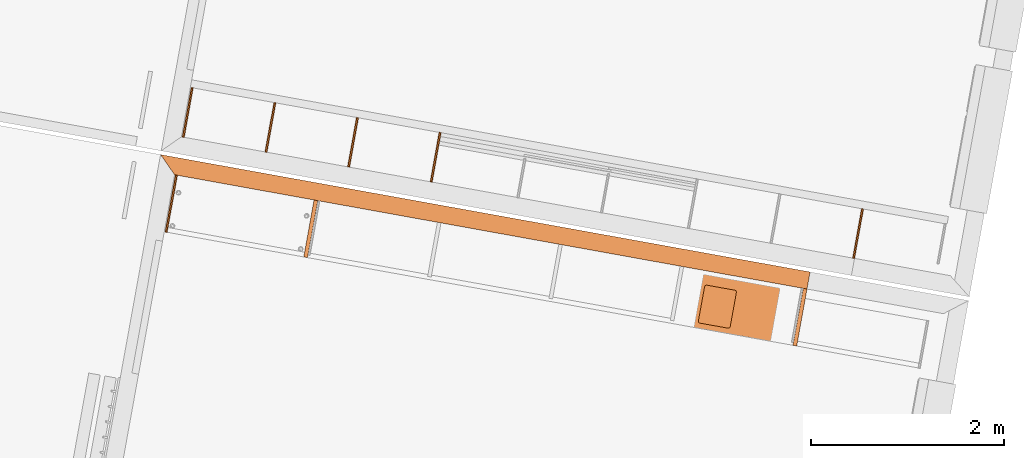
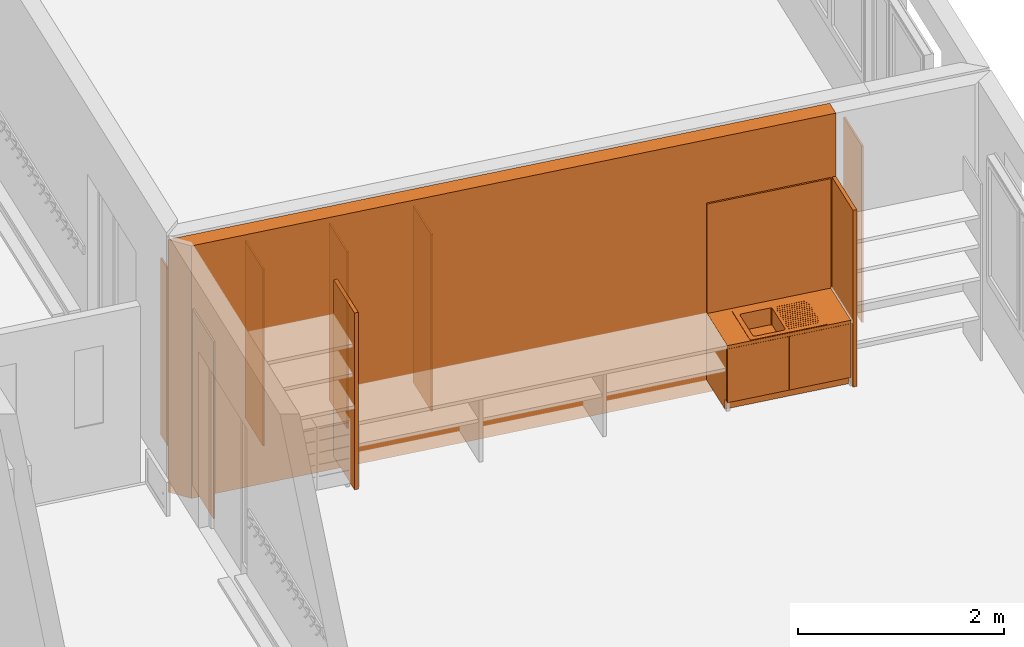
# One storey, part 19 of 52: 10 proxies.
"""IFC2X3 building model written with IfcOpenShell, lengths in metres."""

from ifc_helpers import new_model, entity, si_unit, converted_unit, derived_unit, money_unit, direction, frame, origin_with_axes, place, context, subcontext, project, spatial, polyline, outline, extrude, open_shell, faceted_brep, surface_model, source, transform, mapped, material, type_object, element, save


model = new_model("IFC2X3")

# Units and contexts
model_context = context("Model", 3, precision=1e-05, world=origin_with_axes(), true_north=direction((0.0, 1.0)))
body_context = subcontext(model_context, "Body", "Model", "MODEL_VIEW")
ifc_project = project(units=[si_unit("LENGTHUNIT", "METRE"), si_unit("AREAUNIT", "SQUARE_METRE"), si_unit("VOLUMEUNIT", "CUBIC_METRE"), converted_unit("PLANEANGLEUNIT", "DEGREE", entity("IfcPlaneAngleMeasure", 0.0174532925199), si_unit("PLANEANGLEUNIT", "RADIAN"), dimensions=[0, 0, 0, 0, 0, 0, 0]), money_unit("CHF"), converted_unit("TIMEUNIT", "Year", entity("IfcTimeMeasure", 31556926.0), si_unit("TIMEUNIT", "SECOND"), dimensions=[0, 0, 1, 0, 0, 0, 0]), si_unit("MASSUNIT", "GRAM", prefix="KILO"), si_unit("THERMODYNAMICTEMPERATUREUNIT", "DEGREE_CELSIUS"), si_unit("LUMINOUSINTENSITYUNIT", "LUMEN"), si_unit("ENERGYUNIT", "JOULE", prefix="MEGA"), derived_unit("THERMALCONDUCTANCEUNIT", [(si_unit("POWERUNIT", "WATT"), 1), (si_unit("LENGTHUNIT", "METRE"), -1), (si_unit("THERMODYNAMICTEMPERATUREUNIT", "KELVIN"), -1)]), derived_unit("SPECIFICHEATCAPACITYUNIT", [(si_unit("ENERGYUNIT", "JOULE"), 1), (si_unit("MASSUNIT", "GRAM", prefix="KILO"), -1), (si_unit("THERMODYNAMICTEMPERATUREUNIT", "KELVIN"), -1)]), derived_unit("MASSDENSITYUNIT", [(si_unit("MASSUNIT", "GRAM", prefix="KILO"), 1), (si_unit("VOLUMEUNIT", "CUBIC_METRE"), -1)])], contexts=[model_context])

# Site, building, storey
site_placement = place(None, frame((0.0, 0.0, 0.0), z_axis=(0.0, 0.0, 1.0), x_axis=(-0.177771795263, -0.984071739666, 0.0)))
site = spatial("IfcSite", under=ifc_project, at=site_placement, Name="Site", CompositionType="ELEMENT")
building_placement = place(site_placement, origin_with_axes())
building = spatial("IfcBuilding", under=site, at=building_placement, Name="Bâtiment", CompositionType="ELEMENT")
storey_placement = place(building_placement, frame((0.0, 0.0, 3.2), z_axis=(0.0, 0.0, 1.0), x_axis=(1.0, 0.0, 0.0)))
storey = spatial("IfcBuildingStorey", under=building, at=storey_placement, Name="R+1", CompositionType="ELEMENT", Elevation=3.2)

# Proxies
ifc_material_1 = material(Name="_BA banché RAL9007")
building_element_proxy_type_1 = type_object("IfcBuildingElementProxyType", Name="_BA banché RAL9007 180", PredefinedType="NOTDEFINED")
proxy_1_placement = place(storey_placement, frame((128.504841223, -156.627151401, -0.15), z_axis=(0.0, 0.0, 1.0), x_axis=(0.0, 1.0, 0.0)))
element("IfcBuildingElementProxy", 1, at=proxy_1_placement, inside=storey, type_object=building_element_proxy_type_1, material=ifc_material_1, Name="M refend", context=body_context, shape_type="SweptSolid", body=[
    extrude(outline(polyline([(0.17999999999, -0.18), (6.84099999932, -0.18), (6.84099999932, 0.0), (0.0, 0.0), (0.17999999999, -0.18)])), origin_with_axes(), (0.0, 0.0, 1.0), 3.0),
])
ifc_material_2 = material(Name="_panneau mélaminé")
building_element_proxy_type_2 = type_object("IfcBuildingElementProxyType", Name="_panneau mélaminé 40", PredefinedType="NOTDEFINED")
proxy_2_placement = place(storey_placement, frame((129.284841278, -149.826151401, 0.0), z_axis=(0.0, 0.0, 1.0), x_axis=(-1.0, 0.0, 0.0)))
element("IfcBuildingElementProxy", 2, at=proxy_2_placement, inside=storey, type_object=building_element_proxy_type_2, material=ifc_material_2, Name="cloison-fd-classe D", context=body_context, shape_type="SweptSolid", body=[
    extrude(outline(polyline([(0.0, -0.04), (0.600000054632, -0.04), (0.600000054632, 0.0), (0.0, 0.0), (0.0, -0.04)])), origin_with_axes(), (0.0, 0.0, 1.0), 2.1),
])
proxy_3_placement = place(storey_placement, frame((129.284841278, -154.978236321, 0.0), z_axis=(0.0, 0.0, 1.0), x_axis=(-1.0, 0.0, 0.0)))
element("IfcBuildingElementProxy", 3, at=proxy_3_placement, inside=storey, type_object=building_element_proxy_type_2, material=ifc_material_2, Name="cloison-fd-classe G", context=body_context, shape_type="SweptSolid", body=[
    extrude(outline(polyline([(0.0, -0.04), (0.600000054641, -0.04), (0.600000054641, 0.0), (0.0, 0.0), (0.0, -0.04)])), origin_with_axes(), (0.0, 0.0, 1.0), 2.1),
])
building_element_proxy_type_3 = type_object("IfcBuildingElementProxyType", Name="_panneau mélaminé 19", PredefinedType="NOTDEFINED")
proxy_4_placement = place(storey_placement, frame((129.284841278, -156.418151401, 0.0), z_axis=(0.0, 0.0, 1.0), x_axis=(-1.0, 0.0, 0.0)))
element("IfcBuildingElementProxy", 4, at=proxy_4_placement, inside=storey, type_object=building_element_proxy_type_3, material=ifc_material_2, Name="cloison-fd-classe G", context=body_context, shape_type="SweptSolid", body=[
    extrude(outline(polyline([(0.0, 0.0), (0.600000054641, 0.0), (0.600000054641, 0.019), (0.0, 0.019), (0.0, 0.0)])), origin_with_axes(), (0.0, 0.0, 1.0), 2.1),
])
proxy_5_placement = place(storey_placement, frame((128.284841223, -156.418136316, 0.0), z_axis=(0.0, 0.0, 1.0), x_axis=(-1.0, 0.0, 0.0)))
element("IfcBuildingElementProxy", 5, at=proxy_5_placement, inside=storey, type_object=building_element_proxy_type_3, material=ifc_material_2, Name="cloison pl-classe", context=body_context, shape_type="SweptSolid", body=[
    extrude(outline(polyline([(0.0, 0.0), (0.519999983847, 0.0), (0.519999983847, 0.019), (0.0, 0.019), (0.0, 0.0)])), origin_with_axes(), (0.0, 0.0, 1.0), 2.1),
])
proxy_6_placement = place(storey_placement, frame((128.28484124, -149.367651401, 0.0), z_axis=(0.0, 0.0, 1.0), x_axis=(-1.0, 0.0, 0.0)))
element("IfcBuildingElementProxy", 6, at=proxy_6_placement, inside=storey, type_object=building_element_proxy_type_3, material=ifc_material_2, Name="cloison pl-classe", context=body_context, shape_type="SweptSolid", body=[
    extrude(outline(polyline([(0.0, -0.0095), (0.519999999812, -0.0095), (0.519999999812, 0.0095), (0.0, 0.0095), (0.0, -0.0095)])), origin_with_axes(), (0.0, 0.0, 1.0), 2.1),
])
for number, where, z_axis, x_axis, name in (
    (7, (128.284841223, -154.686651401, 0.0), (0.0, 0.0, 1.0), (-1.0, 0.0, 0.0), "cloison pl-classe"),
    (8, (128.284841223, -155.556651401, 0.0), (0.0, 0.0, 1.0), (-1.0, 0.0, 0.0), "cloison pl-classe"),
):
    element("IfcBuildingElementProxy", number, at=place(storey_placement, frame(where, z_axis=z_axis, x_axis=x_axis)), inside=storey, type_object=building_element_proxy_type_3, material=ifc_material_2, Name=name, context=body_context, shape_type="SweptSolid", body=[
        extrude(outline(polyline([(0.0, -0.0095), (0.519999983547, -0.0095), (0.519999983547, 0.0095), (0.0, 0.0095), (0.0, -0.0095)])), origin_with_axes(), (0.0, 0.0, 1.0), 2.1),
    ])
proxy_7_placement = place(storey_placement, frame((128.284841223, -153.816651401, 0.0), z_axis=(0.0, 0.0, 1.0), x_axis=(-1.0, 0.0, 0.0)))
element("IfcBuildingElementProxy", 9, at=proxy_7_placement, inside=storey, type_object=building_element_proxy_type_3, material=ifc_material_2, Name="cloison pl-classe", context=body_context, shape_type="SweptSolid", body=[
    extrude(outline(polyline([(0.0, -0.0095), (0.519999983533, -0.0095), (0.519999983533, 0.0095), (0.0, 0.0095), (0.0, -0.0095)])), origin_with_axes(), (0.0, 0.0, 1.0), 2.1),
])
ifc_material_3 = material(Name="Matériau de construction IFC")
building_element_proxy_type_4 = type_object("IfcBuildingElementProxyType", Name="Elément simple avec deux portes 21", PredefinedType="NOTDEFINED")
shared_shape = source(origin_with_axes(), body_context, "Body", "SurfaceModel", [
    surface_model("IfcShellBasedSurfaceModel", [(0.5, 0.600000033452, 0.733), (0.496505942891, 0.600000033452, 0.733460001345), (0.496505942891, 0.620000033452, 0.733460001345), (0.5, 0.620000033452, 0.733), (0.49325, 0.600000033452, 0.734808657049), (0.49325, 0.620000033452, 0.734808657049), (0.503494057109, 0.600000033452, 0.733460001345), (0.503494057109, 0.620000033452, 0.733460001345), (0.490454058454, 0.600000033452, 0.736954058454), (0.490454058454, 0.620000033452, 0.736954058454), (0.50675, 0.600000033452, 0.734808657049), (0.50675, 0.620000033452, 0.734808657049), (0.488308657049, 0.600000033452, 0.73975), (0.488308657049, 0.620000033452, 0.73975), (0.509545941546, 0.600000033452, 0.736954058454), (0.509545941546, 0.620000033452, 0.736954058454), (0.486960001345, 0.600000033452, 0.743005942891), (0.486960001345, 0.620000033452, 0.743005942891), (0.511691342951, 0.600000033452, 0.73975), (0.511691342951, 0.620000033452, 0.73975), (0.4865, 0.600000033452, 0.7465), (0.4865, 0.620000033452, 0.7465), (0.513039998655, 0.600000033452, 0.743005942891), (0.513039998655, 0.620000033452, 0.743005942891), (0.486960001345, 0.600000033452, 0.749994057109), (0.486960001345, 0.620000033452, 0.749994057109), (0.5135, 0.600000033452, 0.7465), (0.5135, 0.620000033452, 0.7465), (0.488308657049, 0.600000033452, 0.75325), (0.488308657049, 0.620000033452, 0.75325), (0.513039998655, 0.600000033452, 0.749994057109), (0.513039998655, 0.620000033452, 0.749994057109), (0.490454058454, 0.600000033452, 0.756045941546), (0.490454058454, 0.620000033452, 0.756045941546), (0.511691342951, 0.600000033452, 0.75325), (0.511691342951, 0.620000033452, 0.75325), (0.49325, 0.600000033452, 0.758191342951), (0.49325, 0.620000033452, 0.758191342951), (0.509545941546, 0.600000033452, 0.756045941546), (0.509545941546, 0.620000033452, 0.756045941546), (0.496505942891, 0.600000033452, 0.759539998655), (0.496505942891, 0.620000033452, 0.759539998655), (0.50675, 0.600000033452, 0.758191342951), (0.50675, 0.620000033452, 0.758191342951), (0.5, 0.600000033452, 0.76), (0.5, 0.620000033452, 0.76), (0.503494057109, 0.600000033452, 0.759539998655), (0.503494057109, 0.620000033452, 0.759539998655)], [open_shell([[[0, 1, 2, 3]], [[1, 4, 5, 2]], [[6, 0, 3, 7]], [[4, 8, 9, 5]], [[10, 6, 7, 11]], [[8, 12, 13, 9]], [[14, 10, 11, 15]], [[12, 16, 17, 13]], [[18, 14, 15, 19]], [[16, 20, 21, 17]], [[22, 18, 19, 23]], [[20, 24, 25, 21]], [[26, 22, 23, 27]], [[24, 28, 29, 25]], [[30, 26, 27, 31]], [[28, 32, 33, 29]], [[34, 30, 31, 35]], [[32, 36, 37, 33]], [[38, 34, 35, 39]], [[36, 40, 41, 37]], [[42, 38, 39, 43]], [[40, 44, 45, 41]], [[46, 42, 43, 47]], [[44, 46, 47, 45]]])]),
    surface_model("IfcShellBasedSurfaceModel", [(0.7, 0.600000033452, 0.733), (0.696505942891, 0.600000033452, 0.733460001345), (0.696505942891, 0.620000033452, 0.733460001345), (0.7, 0.620000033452, 0.733), (0.69325, 0.600000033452, 0.734808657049), (0.69325, 0.620000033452, 0.734808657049), (0.703494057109, 0.600000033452, 0.733460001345), (0.703494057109, 0.620000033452, 0.733460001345), (0.690454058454, 0.600000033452, 0.736954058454), (0.690454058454, 0.620000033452, 0.736954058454), (0.70675, 0.600000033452, 0.734808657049), (0.70675, 0.620000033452, 0.734808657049), (0.688308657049, 0.600000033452, 0.73975), (0.688308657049, 0.620000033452, 0.73975), (0.709545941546, 0.600000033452, 0.736954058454), (0.709545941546, 0.620000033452, 0.736954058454), (0.686960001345, 0.600000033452, 0.743005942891), (0.686960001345, 0.620000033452, 0.743005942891), (0.711691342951, 0.600000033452, 0.73975), (0.711691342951, 0.620000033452, 0.73975), (0.6865, 0.600000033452, 0.7465), (0.6865, 0.620000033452, 0.7465), (0.713039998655, 0.600000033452, 0.743005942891), (0.713039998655, 0.620000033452, 0.743005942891), (0.686960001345, 0.600000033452, 0.749994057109), (0.686960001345, 0.620000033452, 0.749994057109), (0.7135, 0.600000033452, 0.7465), (0.7135, 0.620000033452, 0.7465), (0.688308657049, 0.600000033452, 0.75325), (0.688308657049, 0.620000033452, 0.75325), (0.713039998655, 0.600000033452, 0.749994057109), (0.713039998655, 0.620000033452, 0.749994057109), (0.690454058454, 0.600000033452, 0.756045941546), (0.690454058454, 0.620000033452, 0.756045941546), (0.711691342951, 0.600000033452, 0.75325), (0.711691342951, 0.620000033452, 0.75325), (0.69325, 0.600000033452, 0.758191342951), (0.69325, 0.620000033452, 0.758191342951), (0.709545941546, 0.600000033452, 0.756045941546), (0.709545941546, 0.620000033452, 0.756045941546), (0.696505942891, 0.600000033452, 0.759539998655), (0.696505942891, 0.620000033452, 0.759539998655), (0.70675, 0.600000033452, 0.758191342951), (0.70675, 0.620000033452, 0.758191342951), (0.7, 0.600000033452, 0.76), (0.7, 0.620000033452, 0.76), (0.703494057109, 0.600000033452, 0.759539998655), (0.703494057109, 0.620000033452, 0.759539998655)], [open_shell([[[0, 1, 2, 3]], [[1, 4, 5, 2]], [[6, 0, 3, 7]], [[4, 8, 9, 5]], [[10, 6, 7, 11]], [[8, 12, 13, 9]], [[14, 10, 11, 15]], [[12, 16, 17, 13]], [[18, 14, 15, 19]], [[16, 20, 21, 17]], [[22, 18, 19, 23]], [[20, 24, 25, 21]], [[26, 22, 23, 27]], [[24, 28, 29, 25]], [[30, 26, 27, 31]], [[28, 32, 33, 29]], [[34, 30, 31, 35]], [[32, 36, 37, 33]], [[38, 34, 35, 39]], [[36, 40, 41, 37]], [[42, 38, 39, 43]], [[40, 44, 45, 41]], [[46, 42, 43, 47]], [[44, 46, 47, 45]]])]),
    surface_model("IfcShellBasedSurfaceModel", [(0.6, 0.600000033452, 0.579), (0.594564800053, 0.600000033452, 0.579715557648), (0.594564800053, 0.620000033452, 0.579715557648), (0.6, 0.620000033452, 0.579), (0.5895, 0.600000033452, 0.581813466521), (0.5895, 0.620000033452, 0.581813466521), (0.605435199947, 0.600000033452, 0.579715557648), (0.605435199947, 0.620000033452, 0.579715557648), (0.585150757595, 0.600000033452, 0.585150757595), (0.585150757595, 0.620000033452, 0.585150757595), (0.6105, 0.600000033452, 0.581813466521), (0.6105, 0.620000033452, 0.581813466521), (0.581813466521, 0.600000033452, 0.5895), (0.581813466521, 0.620000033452, 0.5895), (0.614849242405, 0.600000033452, 0.585150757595), (0.614849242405, 0.620000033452, 0.585150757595), (0.579715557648, 0.600000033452, 0.594564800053), (0.579715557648, 0.620000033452, 0.594564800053), (0.618186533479, 0.600000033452, 0.5895), (0.618186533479, 0.620000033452, 0.5895), (0.579, 0.600000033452, 0.6), (0.579, 0.620000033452, 0.6), (0.620284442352, 0.600000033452, 0.594564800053), (0.620284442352, 0.620000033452, 0.594564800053), (0.579715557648, 0.600000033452, 0.605435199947), (0.579715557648, 0.620000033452, 0.605435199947), (0.621, 0.600000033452, 0.6), (0.621, 0.620000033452, 0.6), (0.581813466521, 0.600000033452, 0.6105), (0.581813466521, 0.620000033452, 0.6105), (0.620284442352, 0.600000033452, 0.605435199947), (0.620284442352, 0.620000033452, 0.605435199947), (0.585150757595, 0.600000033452, 0.614849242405), (0.585150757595, 0.620000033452, 0.614849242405), (0.618186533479, 0.600000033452, 0.6105), (0.618186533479, 0.620000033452, 0.6105), (0.5895, 0.600000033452, 0.618186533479), (0.5895, 0.620000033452, 0.618186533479), (0.614849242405, 0.600000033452, 0.614849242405), (0.614849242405, 0.620000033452, 0.614849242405), (0.594564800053, 0.600000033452, 0.620284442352), (0.594564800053, 0.620000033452, 0.620284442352), (0.6105, 0.600000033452, 0.618186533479), (0.6105, 0.620000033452, 0.618186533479), (0.6, 0.600000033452, 0.621), (0.6, 0.620000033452, 0.621), (0.605435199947, 0.600000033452, 0.620284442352), (0.605435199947, 0.620000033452, 0.620284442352)], [open_shell([[[0, 1, 2, 3]], [[1, 4, 5, 2]], [[6, 0, 3, 7]], [[4, 8, 9, 5]], [[10, 6, 7, 11]], [[8, 12, 13, 9]], [[14, 10, 11, 15]], [[12, 16, 17, 13]], [[18, 14, 15, 19]], [[16, 20, 21, 17]], [[22, 18, 19, 23]], [[20, 24, 25, 21]], [[26, 22, 23, 27]], [[24, 28, 29, 25]], [[30, 26, 27, 31]], [[28, 32, 33, 29]], [[34, 30, 31, 35]], [[32, 36, 37, 33]], [[38, 34, 35, 39]], [[36, 40, 41, 37]], [[42, 38, 39, 43]], [[40, 44, 45, 41]], [[46, 42, 43, 47]], [[44, 46, 47, 45]]])]),
    faceted_brep([(0.0, 0.07, 0.0), (1.278, 0.07, 0.0), (1.278, 0.07, 0.12), (0.0, 0.07, 0.12), (0.0, 0.600000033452, 0.0), (1.278, 0.600000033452, 0.0), (1.278, 0.600000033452, 0.12), (0.0, 0.600000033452, 0.12)], [[[0, 1, 2, 3]], [[0, 4, 5, 1]], [[1, 5, 6, 2]], [[3, 2, 6, 7]], [[4, 0, 3, 7]], [[5, 4, 7, 6]]]),
    faceted_brep([(0.0, 0.02, 0.12), (0.02, 0.02, 0.12), (0.02, 0.02, 0.14), (0.0, 0.02, 0.14), (0.0, 0.600000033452, 0.12), (0.02, 0.600000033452, 0.12), (1.258, 0.600000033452, 0.12), (1.278, 0.600000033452, 0.12), (1.278, 0.02, 0.12), (1.258, 0.02, 0.12), (1.258, 0.02, 0.14), (1.278, 0.02, 0.14), (1.278, 0.600000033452, 0.14), (1.258, 0.600000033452, 0.14), (0.02, 0.600000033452, 0.14), (0.0, 0.600000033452, 0.14)], [[[0, 1, 2, 3]], [[0, 4, 5, 6, 7, 8, 9, 1]], [[1, 9, 10, 2]], [[3, 2, 10, 11, 12, 13, 14, 15]], [[4, 0, 3, 15]], [[5, 4, 15, 14]], [[6, 5, 14, 13]], [[7, 6, 13, 12]], [[8, 7, 12, 11]], [[9, 8, 11, 10]]]),
    faceted_brep([(0.0, 0.02, 0.14), (0.02, 0.02, 0.14), (0.02, 0.02, 0.76), (0.0, 0.02, 0.76), (0.0, 0.600000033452, 0.14), (1.278, 0.600000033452, 0.14), (1.278, 0.02, 0.14), (1.258, 0.02, 0.14), (1.258, 0.580000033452, 0.14), (0.02, 0.580000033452, 0.14), (0.02, 0.580000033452, 0.76), (1.258, 0.580000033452, 0.76), (1.258, 0.02, 0.76), (1.278, 0.02, 0.76), (1.278, 0.600000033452, 0.76), (0.0, 0.600000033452, 0.76)], [[[0, 1, 2, 3]], [[0, 4, 5, 6, 7, 8, 9, 1]], [[1, 9, 10, 2]], [[3, 2, 10, 11, 12, 13, 14, 15]], [[4, 0, 3, 15]], [[5, 4, 15, 14]], [[6, 5, 14, 13]], [[7, 6, 13, 12]], [[8, 7, 12, 11]], [[9, 8, 11, 10]]]),
    faceted_brep([(1.258, 0.02, 0.41), (1.258, 0.580000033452, 0.41), (1.258, 0.580000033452, 0.43), (1.258, 0.02, 0.43), (0.02, 0.02, 0.41), (0.02, 0.580000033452, 0.41), (0.02, 0.580000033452, 0.43), (0.02, 0.02, 0.43)], [[[0, 1, 2, 3]], [[0, 4, 5, 1]], [[1, 5, 6, 2]], [[3, 2, 6, 7]], [[4, 0, 3, 7]], [[5, 4, 7, 6]]]),
    surface_model("IfcShellBasedSurfaceModel", [(0.309, 0.0550000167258, 0.605), (0.604, 0.0550000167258, 0.605), (0.604, 0.0550000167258, 0.8), (0.309, 0.0550000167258, 0.8), (0.299, 0.0576795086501, 0.605), (0.291679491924, 0.0650000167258, 0.605), (0.289, 0.0750000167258, 0.605), (0.289, 0.435000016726, 0.605), (0.291679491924, 0.445000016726, 0.605), (0.299, 0.452320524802, 0.605), (0.309, 0.455000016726, 0.605), (0.604, 0.455000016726, 0.605), (0.614, 0.452320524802, 0.605), (0.621320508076, 0.445000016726, 0.605), (0.624, 0.435000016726, 0.605), (0.624, 0.0750000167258, 0.605), (0.618142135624, 0.0608578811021, 0.605), (0.618142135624, 0.0608578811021, 0.8), (0.299, 0.0576795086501, 0.8), (0.291679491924, 0.0650000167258, 0.8), (0.289, 0.0750000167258, 0.8), (0.289, 0.435000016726, 0.8), (0.291679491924, 0.445000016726, 0.8), (0.299, 0.452320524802, 0.8), (0.309, 0.455000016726, 0.8), (0.604, 0.455000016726, 0.8), (0.614, 0.452320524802, 0.8), (0.621320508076, 0.445000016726, 0.8), (0.624, 0.435000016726, 0.8), (0.624, 0.0750000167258, 0.8)], [open_shell([[[0, 1, 2, 3]], [[0, 4, 5, 6, 7, 8, 9, 10, 11, 12, 13, 14, 15, 16, 1]], [[1, 16, 17, 2]], [[4, 0, 3, 18]], [[5, 4, 18, 19]], [[6, 5, 19, 20]], [[7, 6, 20, 21]], [[8, 7, 21, 22]], [[9, 8, 22, 23]], [[10, 9, 23, 24]], [[11, 10, 24, 25]], [[12, 11, 25, 26]], [[13, 12, 26, 27]], [[14, 13, 27, 28]], [[15, 14, 28, 29]], [[16, 15, 29, 17]]])]),
    faceted_brep([(0.259, 0.00500001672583, 0.8), (1.019, 0.00500001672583, 0.8), (1.019, 0.00500001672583, 0.805), (0.259, 0.00500001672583, 0.805), (0.249, 0.00767950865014, 0.8), (0.241679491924, 0.0150000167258, 0.8), (0.239, 0.0250000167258, 0.8), (0.239, 0.535000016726, 0.8), (0.241679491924, 0.545000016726, 0.8), (0.249, 0.552320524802, 0.8), (0.259, 0.555000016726, 0.8), (1.019, 0.555000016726, 0.8), (1.029, 0.552320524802, 0.8), (1.03632050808, 0.545000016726, 0.8), (1.039, 0.535000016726, 0.8), (1.039, 0.0250000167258, 0.8), (1.03314213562, 0.0108578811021, 0.8), (0.309, 0.0550000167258, 0.8), (0.604, 0.0550000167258, 0.8), (0.618142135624, 0.0608578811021, 0.8), (0.624, 0.0750000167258, 0.8), (0.624, 0.435000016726, 0.8), (0.621320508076, 0.445000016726, 0.8), (0.614, 0.452320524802, 0.8), (0.604, 0.455000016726, 0.8), (0.309, 0.455000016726, 0.8), (0.299, 0.452320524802, 0.8), (0.291679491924, 0.445000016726, 0.8), (0.289, 0.435000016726, 0.8), (0.289, 0.0750000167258, 0.8), (0.291679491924, 0.0650000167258, 0.8), (0.299, 0.0576795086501, 0.8), (1.03314213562, 0.0108578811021, 0.805), (1.039, 0.0250000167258, 0.805), (1.039, 0.535000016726, 0.805), (1.03632050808, 0.545000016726, 0.805), (1.029, 0.552320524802, 0.805), (1.019, 0.555000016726, 0.805), (0.259, 0.555000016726, 0.805), (0.249, 0.552320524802, 0.805), (0.241679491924, 0.545000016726, 0.805), (0.239, 0.535000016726, 0.805), (0.239, 0.0250000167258, 0.805), (0.241679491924, 0.0150000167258, 0.805), (0.249, 0.00767950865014, 0.805), (0.309, 0.0550000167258, 0.805), (0.299, 0.0576795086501, 0.805), (0.291679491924, 0.0650000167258, 0.805), (0.289, 0.0750000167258, 0.805), (0.289, 0.435000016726, 0.805), (0.291679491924, 0.445000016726, 0.805), (0.299, 0.452320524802, 0.805), (0.309, 0.455000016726, 0.805), (0.604, 0.455000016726, 0.805), (0.614, 0.452320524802, 0.805), (0.621320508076, 0.445000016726, 0.805), (0.624, 0.435000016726, 0.805), (0.624, 0.0750000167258, 0.805), (0.618142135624, 0.0608578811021, 0.805), (0.604, 0.0550000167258, 0.805)], [[[0, 1, 2, 3]], [[0, 4, 5, 6, 7, 8, 9, 10, 11, 12, 13, 14, 15, 16, 1], [17, 18, 19, 20, 21, 22, 23, 24, 25, 26, 27, 28, 29, 30, 31]], [[1, 16, 32, 2]], [[3, 2, 32, 33, 34, 35, 36, 37, 38, 39, 40, 41, 42, 43, 44], [45, 46, 47, 48, 49, 50, 51, 52, 53, 54, 55, 56, 57, 58, 59]], [[4, 0, 3, 44]], [[5, 4, 44, 43]], [[6, 5, 43, 42]], [[7, 6, 42, 41]], [[8, 7, 41, 40]], [[9, 8, 40, 39]], [[10, 9, 39, 38]], [[11, 10, 38, 37]], [[12, 11, 37, 36]], [[13, 12, 36, 35]], [[14, 13, 35, 34]], [[15, 14, 34, 33]], [[16, 15, 33, 32]], [[18, 17, 45, 59]], [[19, 18, 59, 58]], [[20, 19, 58, 57]], [[21, 20, 57, 56]], [[22, 21, 56, 55]], [[23, 22, 55, 54]], [[24, 23, 54, 53]], [[25, 24, 53, 52]], [[26, 25, 52, 51]], [[27, 26, 51, 50]], [[28, 27, 50, 49]], [[29, 28, 49, 48]], [[30, 29, 48, 47]], [[31, 30, 47, 46]], [[17, 31, 46, 45]]]),
    faceted_brep([(0.654, 0.0600000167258, 0.805), (0.959, 0.0600000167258, 0.805), (0.959, 0.0600000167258, 0.807), (0.654, 0.0600000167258, 0.807), (0.654, 0.0650000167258, 0.805), (0.959, 0.0650000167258, 0.805), (0.959, 0.0650000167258, 0.807), (0.654, 0.0650000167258, 0.807)], [[[0, 1, 2, 3]], [[0, 4, 5, 1]], [[1, 5, 6, 2]], [[3, 2, 6, 7]], [[4, 0, 3, 7]], [[5, 4, 7, 6]]]),
    faceted_brep([(0.654, 0.0925000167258, 0.805), (0.989, 0.0925000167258, 0.805), (0.989, 0.0925000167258, 0.807), (0.654, 0.0925000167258, 0.807), (0.654, 0.0975000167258, 0.805), (0.989, 0.0975000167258, 0.805), (0.989, 0.0975000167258, 0.807), (0.654, 0.0975000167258, 0.807)], [[[0, 1, 2, 3]], [[0, 4, 5, 1]], [[1, 5, 6, 2]], [[3, 2, 6, 7]], [[4, 0, 3, 7]], [[5, 4, 7, 6]]]),
    faceted_brep([(0.654, 0.125000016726, 0.805), (0.989, 0.125000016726, 0.805), (0.989, 0.125000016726, 0.807), (0.654, 0.125000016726, 0.807), (0.654, 0.130000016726, 0.805), (0.989, 0.130000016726, 0.805), (0.989, 0.130000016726, 0.807), (0.654, 0.130000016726, 0.807)], [[[0, 1, 2, 3]], [[0, 4, 5, 1]], [[1, 5, 6, 2]], [[3, 2, 6, 7]], [[4, 0, 3, 7]], [[5, 4, 7, 6]]]),
    faceted_brep([(0.654, 0.157500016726, 0.805), (0.989, 0.157500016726, 0.805), (0.989, 0.157500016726, 0.807), (0.654, 0.157500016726, 0.807), (0.654, 0.162500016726, 0.805), (0.989, 0.162500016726, 0.805), (0.989, 0.162500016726, 0.807), (0.654, 0.162500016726, 0.807)], [[[0, 1, 2, 3]], [[0, 4, 5, 1]], [[1, 5, 6, 2]], [[3, 2, 6, 7]], [[4, 0, 3, 7]], [[5, 4, 7, 6]]]),
    faceted_brep([(0.654, 0.190000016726, 0.805), (0.989, 0.190000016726, 0.805), (0.989, 0.190000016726, 0.807), (0.654, 0.190000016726, 0.807), (0.654, 0.195000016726, 0.805), (0.989, 0.195000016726, 0.805), (0.989, 0.195000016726, 0.807), (0.654, 0.195000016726, 0.807)], [[[0, 1, 2, 3]], [[0, 4, 5, 1]], [[1, 5, 6, 2]], [[3, 2, 6, 7]], [[4, 0, 3, 7]], [[5, 4, 7, 6]]]),
    faceted_brep([(0.654, 0.222500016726, 0.805), (0.989, 0.222500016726, 0.805), (0.989, 0.222500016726, 0.807), (0.654, 0.222500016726, 0.807), (0.654, 0.227500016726, 0.805), (0.989, 0.227500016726, 0.805), (0.989, 0.227500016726, 0.807), (0.654, 0.227500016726, 0.807)], [[[0, 1, 2, 3]], [[0, 4, 5, 1]], [[1, 5, 6, 2]], [[3, 2, 6, 7]], [[4, 0, 3, 7]], [[5, 4, 7, 6]]]),
    faceted_brep([(0.654, 0.255000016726, 0.805), (0.989, 0.255000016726, 0.805), (0.989, 0.255000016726, 0.807), (0.654, 0.255000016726, 0.807), (0.654, 0.260000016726, 0.805), (0.989, 0.260000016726, 0.805), (0.989, 0.260000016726, 0.807), (0.654, 0.260000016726, 0.807)], [[[0, 1, 2, 3]], [[0, 4, 5, 1]], [[1, 5, 6, 2]], [[3, 2, 6, 7]], [[4, 0, 3, 7]], [[5, 4, 7, 6]]]),
    faceted_brep([(0.654, 0.287500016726, 0.805), (0.989, 0.287500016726, 0.805), (0.989, 0.287500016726, 0.807), (0.654, 0.287500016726, 0.807), (0.654, 0.292500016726, 0.805), (0.989, 0.292500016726, 0.805), (0.989, 0.292500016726, 0.807), (0.654, 0.292500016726, 0.807)], [[[0, 1, 2, 3]], [[0, 4, 5, 1]], [[1, 5, 6, 2]], [[3, 2, 6, 7]], [[4, 0, 3, 7]], [[5, 4, 7, 6]]]),
    faceted_brep([(0.654, 0.320000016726, 0.805), (0.989, 0.320000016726, 0.805), (0.989, 0.320000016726, 0.807), (0.654, 0.320000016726, 0.807), (0.654, 0.325000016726, 0.805), (0.989, 0.325000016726, 0.805), (0.989, 0.325000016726, 0.807), (0.654, 0.325000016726, 0.807)], [[[0, 1, 2, 3]], [[0, 4, 5, 1]], [[1, 5, 6, 2]], [[3, 2, 6, 7]], [[4, 0, 3, 7]], [[5, 4, 7, 6]]]),
    faceted_brep([(0.654, 0.352500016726, 0.805), (0.989, 0.352500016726, 0.805), (0.989, 0.352500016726, 0.807), (0.654, 0.352500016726, 0.807), (0.654, 0.357500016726, 0.805), (0.989, 0.357500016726, 0.805), (0.989, 0.357500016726, 0.807), (0.654, 0.357500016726, 0.807)], [[[0, 1, 2, 3]], [[0, 4, 5, 1]], [[1, 5, 6, 2]], [[3, 2, 6, 7]], [[4, 0, 3, 7]], [[5, 4, 7, 6]]]),
    faceted_brep([(0.654, 0.385000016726, 0.805), (0.989, 0.385000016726, 0.805), (0.989, 0.385000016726, 0.807), (0.654, 0.385000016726, 0.807), (0.654, 0.390000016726, 0.805), (0.989, 0.390000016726, 0.805), (0.989, 0.390000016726, 0.807), (0.654, 0.390000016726, 0.807)], [[[0, 1, 2, 3]], [[0, 4, 5, 1]], [[1, 5, 6, 2]], [[3, 2, 6, 7]], [[4, 0, 3, 7]], [[5, 4, 7, 6]]]),
    faceted_brep([(0.654, 0.417500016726, 0.805), (0.989, 0.417500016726, 0.805), (0.989, 0.417500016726, 0.807), (0.654, 0.417500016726, 0.807), (0.654, 0.422500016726, 0.805), (0.989, 0.422500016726, 0.805), (0.989, 0.422500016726, 0.807), (0.654, 0.422500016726, 0.807)], [[[0, 1, 2, 3]], [[0, 4, 5, 1]], [[1, 5, 6, 2]], [[3, 2, 6, 7]], [[4, 0, 3, 7]], [[5, 4, 7, 6]]]),
    faceted_brep([(0.654, 0.450000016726, 0.805), (0.959, 0.450000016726, 0.805), (0.959, 0.450000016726, 0.807), (0.654, 0.450000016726, 0.807), (0.654, 0.455000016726, 0.805), (0.959, 0.455000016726, 0.805), (0.959, 0.455000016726, 0.807), (0.654, 0.455000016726, 0.807)], [[[0, 1, 2, 3]], [[0, 4, 5, 1]], [[1, 5, 6, 2]], [[3, 2, 6, 7]], [[4, 0, 3, 7]], [[5, 4, 7, 6]]]),
    faceted_brep([(0.0, 0.0, 0.76), (1.278, 0.0, 0.76), (1.278, 0.0, 0.8), (0.0, 0.0, 0.8), (0.0, 0.600000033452, 0.76), (1.278, 0.600000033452, 0.76), (0.264, 0.0500000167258, 0.76), (1.014, 0.0500000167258, 0.76), (1.014, 0.535000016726, 0.76), (0.264, 0.535000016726, 0.76), (1.278, 0.600000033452, 0.8), (0.0, 0.600000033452, 0.8), (0.264, 0.0500000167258, 0.8), (0.264, 0.535000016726, 0.8), (1.014, 0.535000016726, 0.8), (1.014, 0.0500000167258, 0.8)], [[[0, 1, 2, 3]], [[0, 4, 5, 1], [6, 7, 8, 9]], [[1, 5, 10, 2]], [[3, 2, 10, 11], [12, 13, 14, 15]], [[4, 0, 3, 11]], [[5, 4, 11, 10]], [[7, 6, 12, 15]], [[8, 7, 15, 14]], [[9, 8, 14, 13]], [[6, 9, 13, 12]]]),
    faceted_brep([(0.0, 0.580000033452, 0.8), (1.278, 0.580000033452, 0.8), (1.278, 0.580000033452, 2.1), (0.0, 0.580000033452, 2.1), (0.0, 0.600000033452, 0.8), (1.278, 0.600000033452, 0.8), (1.278, 0.600000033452, 2.1), (0.0, 0.600000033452, 2.1)], [[[0, 1, 2, 3]], [[0, 4, 5, 1]], [[1, 5, 6, 2]], [[3, 2, 6, 7]], [[4, 0, 3, 7]], [[5, 4, 7, 6]]]),
    faceted_brep([(0.0015, 0.02, 0.1215), (0.6375, 0.02, 0.1215), (0.6375, 0.0, 0.1215), (0.0015, 0.0, 0.1215), (0.0015, 0.02, 0.7585), (0.6375, 0.02, 0.7585), (0.6375, 0.0, 0.7585), (0.0015, 0.0, 0.7585)], [[[0, 1, 2, 3]], [[0, 4, 5, 1]], [[1, 5, 6, 2]], [[3, 2, 6, 7]], [[4, 0, 3, 7]], [[5, 4, 7, 6]]]),
    faceted_brep([(1.2765, 0.02, 0.1215), (1.2765, 0.0, 0.1215), (0.6405, 0.0, 0.1215), (0.6405, 0.02, 0.1215), (1.2765, 0.02, 0.7585), (1.2765, 0.0, 0.7585), (0.6405, 0.0, 0.7585), (0.6405, 0.02, 0.7585)], [[[0, 1, 2, 3]], [[4, 5, 1, 0]], [[1, 5, 6, 2]], [[3, 2, 6, 7]], [[0, 3, 7, 4]], [[7, 6, 5, 4]]]),
])
proxy_8_placement = place(storey_placement, frame((129.28484124, -151.124151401, 0.0), z_axis=(0.0, 0.0, 1.0), x_axis=(0.0, 1.0, 0.0)))
element("IfcBuildingElementProxy", 10, at=proxy_8_placement, inside=storey, type_object=building_element_proxy_type_4, material=ifc_material_3, Name="evier-classe", context=body_context, shape_type="MappedRepresentation", body=[
    mapped(shared_shape, transform((0.0, 0.0, 0.0))),
])

save(model, "model.ifc")
